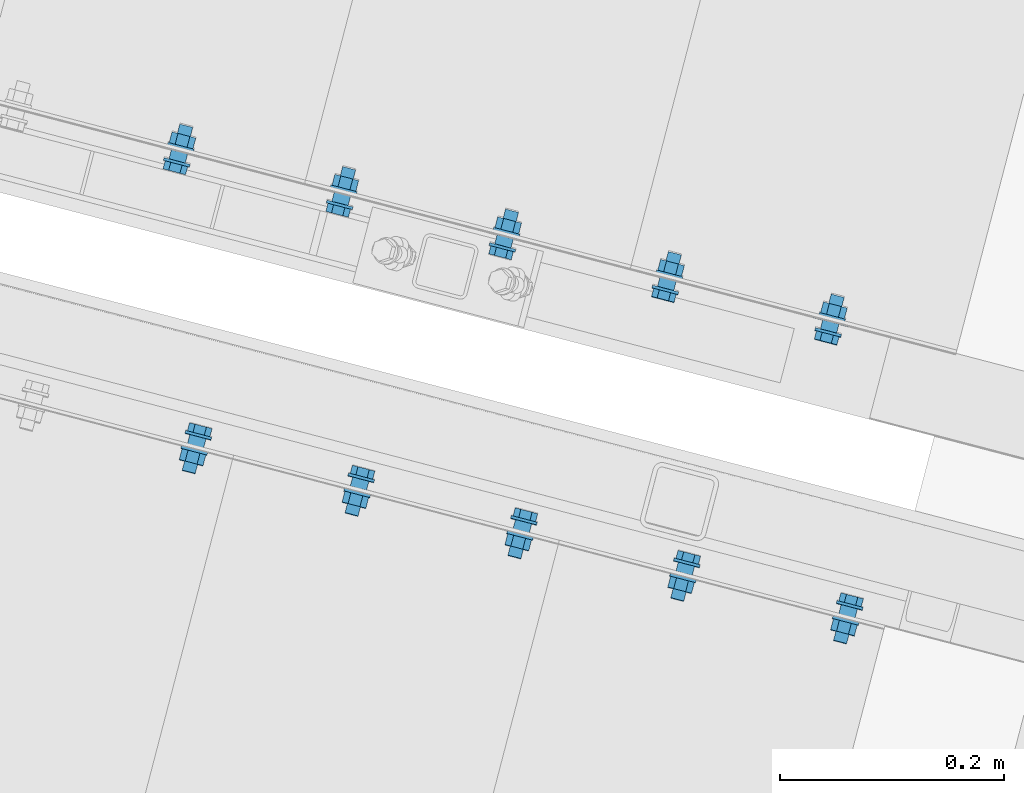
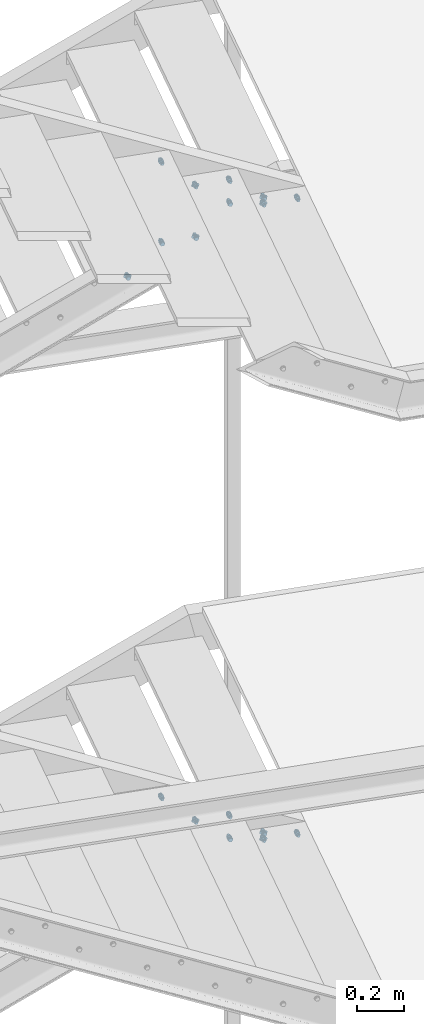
# One storey, part 145 of 169: 17 mechanical fasteners, 10 elements without a shape of their own.
"""IFC2X3 building model written with IfcOpenShell, lengths in millimetres."""

from ifc_helpers import new_model, si_unit, frame, frame_2d, origin_with_axes, origin_2d_with_axis, place, context, subcontext, project, spatial, polyline, circle_curve, parameter, trimmed, segment, composite_curve, circle, outline, extrude, source, transform, mapped, material, type_object, element, aggregate, save


model = new_model("IFC2X3")

# Units and contexts
model_context = context("Model", 3, precision=1e-05, world=origin_with_axes())
body_context = subcontext(model_context, "Body", "Model", "MODEL_VIEW")
ifc_project = project(units=[si_unit("LENGTHUNIT", "METRE", prefix="MILLI"), si_unit("AREAUNIT", "SQUARE_METRE"), si_unit("VOLUMEUNIT", "CUBIC_METRE"), si_unit("MASSUNIT", "GRAM", prefix="KILO"), si_unit("TIMEUNIT", "SECOND"), si_unit("PLANEANGLEUNIT", "RADIAN"), si_unit("SOLIDANGLEUNIT", "STERADIAN"), si_unit("THERMODYNAMICTEMPERATUREUNIT", "DEGREE_CELSIUS"), si_unit("LUMINOUSINTENSITYUNIT", "LUMEN")], contexts=[model_context])

# Site, building, storey
site_placement = place(None, origin_with_axes())
site = spatial("IfcSite", under=ifc_project, at=site_placement, Name="Undefined", CompositionType="ELEMENT")
building_placement = place(site_placement, origin_with_axes())
building = spatial("IfcBuilding", under=site, at=building_placement, Name="Undefined", CompositionType="ELEMENT")
storey_placement = place(building_placement, origin_with_axes())
storey = spatial("IfcBuildingStorey", under=building, at=storey_placement, Name="Undefined", CompositionType="ELEMENT", Elevation=0.0)

# Assembly, mechanical fastener
assembly_1_placement = place(storey_placement, origin_with_axes())
assembly_1 = element("IfcElementAssembly", 1, at=assembly_1_placement, inside=storey, Name="Steel Assembly", AssemblyPlace="NOTDEFINED", PredefinedType="RIGID_FRAME")
ifc_material = material(Name="Undefined")
discrete_accessory_type = type_object("IfcDiscreteAccessoryType", Name="Bolt assembly")
shared_shape_1 = source(origin_with_axes(), body_context, "Body", "SweptSolid", [
    extrude(circle(Radius=7.5, at=origin_2d_with_axis()), frame((0.0, -8.39999975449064, 0.0), z_axis=(0.0, 1.0, 0.0), x_axis=(1.0, 0.0, 0.0)), (0.0, 0.0, 1.0), 8.5),
    extrude(circle(Radius=7.5, at=origin_2d_with_axis()), frame((0.0, -0.100000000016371, 0.0), z_axis=(0.0, 1.0, 0.0), x_axis=(1.0, 0.0, 0.0)), (0.0, 0.0, 1.0), 3.1),
    extrude(outline(polyline([(10.39230484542, 0.0), (5.19615242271, 9.00000000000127), (-5.19615242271, 9.00000000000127), (-10.39230484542, 0.0), (-5.19615242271, -9.00000000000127), (5.19615242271, -9.00000000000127), (10.39230484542, 0.0)])), frame((0.0, -18.4999993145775, 0.0), z_axis=(0.0, 1.0, 0.0), x_axis=(1.0, 0.0, 0.0)), (0.0, 0.0, 1.0), 7.5),
    extrude(circle(Radius=6.0, at=origin_2d_with_axis()), frame((0.0, -10.9999999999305, 0.0), z_axis=(0.0, 1.0, 0.0), x_axis=(1.0, 0.0, 0.0)), (0.0, 0.0, 1.0), 35.0),
    extrude(circle(Radius=12.0, at=origin_2d_with_axis()), frame((0.0, -10.9999999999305, 0.0), z_axis=(0.0, 1.0, 0.0), x_axis=(1.0, 0.0, 0.0)), (0.0, 0.0, 1.0), 2.5),
    extrude(circle(Radius=12.0, at=origin_2d_with_axis()), frame((0.0, 2.99999999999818, 0.0), z_axis=(0.0, 1.0, 0.0), x_axis=(1.0, 0.0, 0.0)), (0.0, 0.0, 1.0), 2.5),
    extrude(outline(polyline([(10.96965511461, 0.0), (5.484827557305, 9.50000000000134), (-5.484827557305, 9.50000000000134), (-10.96965511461, 0.0), (-5.484827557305, -9.50000000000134), (5.484827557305, -9.50000000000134), (10.96965511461, 0.0)])), frame((0.0, 5.50000000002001, 0.0), z_axis=(0.0, 1.0, 0.0), x_axis=(1.0, 0.0, 0.0)), (0.0, 0.0, 1.0), 10.0),
])
mechanical_fastener_1_placement = place(assembly_1_placement, frame((-25660.5955844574, 6561.10286845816, 7700.32161330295), z_axis=(-2.54700353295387e-10, 0.0, -1.0), x_axis=(0.96754609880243, -0.252694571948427, 0.0)))
mechanical_fastener_1 = element("IfcMechanicalFastener", 2, at=mechanical_fastener_1_placement, type_object=discrete_accessory_type, material=ifc_material, Name="Bolt assembly", NominalDiameter=12.0, NominalLength=35.0, context=body_context, shape_type="MappedRepresentation", body=[
    mapped(shared_shape_1, transform((264.999998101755, 3.26144800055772e-09, 24.9999997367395))),
])
aggregate(assembly_1, [mechanical_fastener_1])

assembly_2_placement = place(storey_placement, origin_with_axes())
assembly_2 = element("IfcElementAssembly", 3, at=assembly_2_placement, inside=storey, Name="Steel Assembly", AssemblyPlace="NOTDEFINED", PredefinedType="RIGID_FRAME")
mechanical_fastener_2_placement = place(assembly_2_placement, frame((-25370.3317513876, 6485.29449610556, 7550.32161330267), z_axis=(-2.54700353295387e-10, 0.0, -1.0), x_axis=(0.96754609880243, -0.252694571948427, 0.0)))
mechanical_fastener_2 = element("IfcMechanicalFastener", 4, at=mechanical_fastener_2_placement, type_object=discrete_accessory_type, material=ifc_material, Name="Bolt assembly", NominalDiameter=12.0, NominalLength=35.0, context=body_context, shape_type="MappedRepresentation", body=[
    mapped(shared_shape_1, transform((264.999998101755, 3.26144800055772e-09, 24.9999997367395))),
])

assembly_3_placement = place(storey_placement, origin_with_axes())
assembly_3 = element("IfcElementAssembly", 5, at=assembly_3_placement, inside=storey, Name="Steel Assembly", AssemblyPlace="NOTDEFINED", PredefinedType="RIGID_FRAME")
mechanical_fastener_3_placement = place(assembly_3_placement, frame((-25080.0679183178, 6409.48612375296, 7400.3216133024), z_axis=(-2.54700353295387e-10, 0.0, -1.0), x_axis=(0.96754609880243, -0.252694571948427, 0.0)))
mechanical_fastener_3 = element("IfcMechanicalFastener", 6, at=mechanical_fastener_3_placement, type_object=discrete_accessory_type, material=ifc_material, Name="Bolt assembly", NominalDiameter=12.0, NominalLength=35.0, context=body_context, shape_type="MappedRepresentation", body=[
    mapped(shared_shape_1, transform((264.999998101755, 3.26144800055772e-09, 24.9999997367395))),
])

assembly_4_placement = place(storey_placement, origin_with_axes())
assembly_4 = element("IfcElementAssembly", 7, at=assembly_4_placement, inside=storey, Name="Steel Assembly", AssemblyPlace="NOTDEFINED", PredefinedType="RIGID_FRAME")
mechanical_fastener_4_placement = place(assembly_4_placement, frame((-24726.6469721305, 6575.56857970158, 7250.095847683), z_axis=(-2.54700353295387e-10, 0.0, -1.0), x_axis=(-0.967580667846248, 0.252562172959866, 0.0)))
mechanical_fastener_4 = element("IfcMechanicalFastener", 8, at=mechanical_fastener_4_placement, type_object=discrete_accessory_type, material=ifc_material, Name="Bolt assembly", NominalDiameter=12.0, NominalLength=35.0, context=body_context, shape_type="MappedRepresentation", body=[
    mapped(shared_shape_1, transform((264.999998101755, 3.26144800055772e-09, 24.9999997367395))),
])

assembly_5_placement = place(storey_placement, origin_with_axes())
assembly_5 = element("IfcElementAssembly", 9, at=assembly_5_placement, inside=storey, Name="Steel Assembly", AssemblyPlace="NOTDEFINED", PredefinedType="RIGID_FRAME")
mechanical_fastener_5_placement = place(assembly_5_placement, frame((-25016.9211758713, 6651.33723251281, 7100.09584768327), z_axis=(-2.54700353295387e-10, 0.0, -1.0), x_axis=(-0.967580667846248, 0.252562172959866, 0.0)))
mechanical_fastener_5 = element("IfcMechanicalFastener", 10, at=mechanical_fastener_5_placement, type_object=discrete_accessory_type, material=ifc_material, Name="Bolt assembly", NominalDiameter=12.0, NominalLength=35.0, context=body_context, shape_type="MappedRepresentation", body=[
    mapped(shared_shape_1, transform((264.999998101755, 3.26144800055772e-09, 24.9999997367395))),
])

assembly_6_placement = place(storey_placement, origin_with_axes())
assembly_6 = element("IfcElementAssembly", 11, at=assembly_6_placement, inside=storey, Name="Steel Assembly", AssemblyPlace="NOTDEFINED", PredefinedType="RIGID_FRAME")
mechanical_fastener_6_placement = place(assembly_6_placement, frame((-25660.7096618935, 6560.6659535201, 4400.32164420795), z_axis=(-2.54700353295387e-10, 0.0, -1.0), x_axis=(0.96754609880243, -0.252694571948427, 0.0)))
mechanical_fastener_6 = element("IfcMechanicalFastener", 12, at=mechanical_fastener_6_placement, type_object=discrete_accessory_type, material=ifc_material, Name="Bolt assembly", NominalDiameter=12.0, NominalLength=35.0, context=body_context, shape_type="MappedRepresentation", body=[
    mapped(shared_shape_1, transform((264.999998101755, 3.26144800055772e-09, 24.9999997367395))),
])
aggregate(assembly_6, [mechanical_fastener_6])

assembly_7_placement = place(storey_placement, origin_with_axes())
assembly_7 = element("IfcElementAssembly", 13, at=assembly_7_placement, inside=storey, Name="Steel Assembly", AssemblyPlace="NOTDEFINED", PredefinedType="RIGID_FRAME")
mechanical_fastener_7_placement = place(assembly_7_placement, frame((-25370.4458288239, 6484.8575811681, 4250.32164420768), z_axis=(-2.54700353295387e-10, 0.0, -1.0), x_axis=(0.96754609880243, -0.252694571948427, 0.0)))
mechanical_fastener_7 = element("IfcMechanicalFastener", 14, at=mechanical_fastener_7_placement, type_object=discrete_accessory_type, material=ifc_material, Name="Bolt assembly", NominalDiameter=12.0, NominalLength=35.0, context=body_context, shape_type="MappedRepresentation", body=[
    mapped(shared_shape_1, transform((264.999998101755, 3.26144800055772e-09, 24.9999997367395))),
])

assembly_8_placement = place(storey_placement, origin_with_axes())
assembly_8 = element("IfcElementAssembly", 15, at=assembly_8_placement, inside=storey, Name="Steel Assembly", AssemblyPlace="NOTDEFINED", PredefinedType="RIGID_FRAME")
mechanical_fastener_8_placement = place(assembly_8_placement, frame((-25080.1819957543, 6409.0492088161, 4100.3216442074), z_axis=(-2.54700353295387e-10, 0.0, -1.0), x_axis=(0.96754609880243, -0.252694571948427, 0.0)))
mechanical_fastener_8 = element("IfcMechanicalFastener", 16, at=mechanical_fastener_8_placement, type_object=discrete_accessory_type, material=ifc_material, Name="Bolt assembly", NominalDiameter=12.0, NominalLength=35.0, context=body_context, shape_type="MappedRepresentation", body=[
    mapped(shared_shape_1, transform((264.999998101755, 3.26144800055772e-09, 24.9999997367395))),
])

assembly_9_placement = place(storey_placement, origin_with_axes())
assembly_9 = element("IfcElementAssembly", 17, at=assembly_9_placement, inside=storey, Name="Steel Assembly", AssemblyPlace="NOTDEFINED", PredefinedType="RIGID_FRAME")
mechanical_fastener_9_placement = place(assembly_9_placement, frame((-24726.7610576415, 6575.13166712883, 3950.0958743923), z_axis=(-2.54700353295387e-10, 0.0, -1.0), x_axis=(-0.967580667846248, 0.252562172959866, 0.0)))
mechanical_fastener_9 = element("IfcMechanicalFastener", 18, at=mechanical_fastener_9_placement, type_object=discrete_accessory_type, material=ifc_material, Name="Bolt assembly", NominalDiameter=12.0, NominalLength=35.0, context=body_context, shape_type="MappedRepresentation", body=[
    mapped(shared_shape_1, transform((264.999998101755, 3.26144800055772e-09, 24.9999997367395))),
])

# Mechanical fastener
shared_shape_2 = source(origin_with_axes(), body_context, "Body", "SweptSolid", [
    extrude(circle(Radius=7.5, at=origin_2d_with_axis()), frame((0.0, -8.39999975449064, 0.0), z_axis=(0.0, 1.0, 0.0), x_axis=(1.0, 0.0, 0.0)), (0.0, 0.0, 1.0), 8.5),
    extrude(outline(composite_curve([segment(polyline([(-10.0, 7.5), (10.0, 7.5)]), True, "CONTINUOUS"), segment(trimmed(circle_curve(frame_2d((10.0, 0.0), x_axis=(0.0, 1.0)), 7.5), [parameter(0.0)], [parameter(3.14159265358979)], False, "PARAMETER"), True, "CONTINUOUS"), segment(polyline([(10.0, -7.5), (-10.0, -7.5)]), True, "CONTINUOUS"), segment(trimmed(circle_curve(frame_2d((-10.0, 0.0), x_axis=(0.0, -1.0)), 7.5), [parameter(0.0)], [parameter(3.14159265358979)], False, "PARAMETER"), True, "DISCONTINUOUS")], self_intersect=False)), frame((0.0, -0.100000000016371, 0.0), z_axis=(0.0, 1.0, 0.0), x_axis=(1.0, 0.0, 0.0)), (0.0, 0.0, 1.0), 3.1),
    extrude(outline(polyline([(10.39230484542, 0.0), (5.19615242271, 9.00000000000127), (-5.19615242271, 9.00000000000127), (-10.39230484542, 0.0), (-5.19615242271, -9.00000000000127), (5.19615242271, -9.00000000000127), (10.39230484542, 0.0)])), frame((0.0, -18.4999993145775, 0.0), z_axis=(0.0, 1.0, 0.0), x_axis=(1.0, 0.0, 0.0)), (0.0, 0.0, 1.0), 7.5),
    extrude(circle(Radius=6.0, at=origin_2d_with_axis()), frame((0.0, -10.9999999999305, 0.0), z_axis=(0.0, 1.0, 0.0), x_axis=(1.0, 0.0, 0.0)), (0.0, 0.0, 1.0), 35.0),
    extrude(circle(Radius=12.0, at=origin_2d_with_axis()), frame((0.0, -10.9999999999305, 0.0), z_axis=(0.0, 1.0, 0.0), x_axis=(1.0, 0.0, 0.0)), (0.0, 0.0, 1.0), 2.5),
    extrude(circle(Radius=12.0, at=origin_2d_with_axis()), frame((0.0, 2.99999999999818, 0.0), z_axis=(0.0, 1.0, 0.0), x_axis=(1.0, 0.0, 0.0)), (0.0, 0.0, 1.0), 2.5),
    extrude(outline(polyline([(10.96965511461, 0.0), (5.484827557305, 9.50000000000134), (-5.484827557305, 9.50000000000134), (-10.96965511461, 0.0), (-5.484827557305, -9.50000000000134), (5.484827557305, -9.50000000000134), (10.96965511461, 0.0)])), frame((0.0, 5.50000000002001, 0.0), z_axis=(0.0, 1.0, 0.0), x_axis=(1.0, 0.0, 0.0)), (0.0, 0.0, 1.0), 10.0),
])
mechanical_fastener_10_placement = place(assembly_2_placement, frame((-25370.3317513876, 6485.29449610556, 7550.32161330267), z_axis=(-2.54700353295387e-10, 0.0, -1.0), x_axis=(0.96754609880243, -0.252694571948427, 0.0)))
mechanical_fastener_10 = element("IfcMechanicalFastener", 19, at=mechanical_fastener_10_placement, type_object=discrete_accessory_type, material=ifc_material, Name="Bolt assembly", NominalDiameter=12.0, NominalLength=35.0, context=body_context, shape_type="MappedRepresentation", body=[
    mapped(shared_shape_2, transform((115.000000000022, -4.04725142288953e-10, 25.0))),
])

aggregate(assembly_2, [mechanical_fastener_10, mechanical_fastener_2])

shared_shape_3 = source(origin_with_axes(), body_context, "Body", "SweptSolid", [
    extrude(circle(Radius=7.5, at=origin_2d_with_axis()), frame((0.0, -8.39999975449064, 0.0), z_axis=(0.0, 1.0, 0.0), x_axis=(1.0, 0.0, 0.0)), (0.0, 0.0, 1.0), 8.5),
    extrude(outline(composite_curve([segment(polyline([(-10.0, 7.5), (10.0, 7.5)]), True, "CONTINUOUS"), segment(trimmed(circle_curve(frame_2d((10.0, 0.0), x_axis=(0.0, 1.0)), 7.5), [parameter(0.0)], [parameter(3.14159265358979)], False, "PARAMETER"), True, "CONTINUOUS"), segment(polyline([(10.0, -7.5), (-10.0, -7.5)]), True, "CONTINUOUS"), segment(trimmed(circle_curve(frame_2d((-10.0, 0.0), x_axis=(0.0, -1.0)), 7.5), [parameter(0.0)], [parameter(3.14159265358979)], False, "PARAMETER"), True, "DISCONTINUOUS")], self_intersect=False)), frame((0.0, -0.100000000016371, 0.0), z_axis=(0.0, 1.0, 0.0), x_axis=(1.0, 0.0, 0.0)), (0.0, 0.0, 1.0), 3.1),
    extrude(outline(polyline([(10.39230484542, 0.0), (5.19615242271, 9.00000000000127), (-5.19615242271, 9.00000000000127), (-10.39230484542, 0.0), (-5.19615242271, -9.00000000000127), (5.19615242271, -9.00000000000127), (10.39230484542, 0.0)])), frame((0.0, -18.4999993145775, 0.0), z_axis=(0.0, 1.0, 0.0), x_axis=(1.0, 0.0, 0.0)), (0.0, 0.0, 1.0), 7.5),
    extrude(circle(Radius=6.0, at=origin_2d_with_axis()), frame((0.0, -10.9999999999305, 0.0), z_axis=(0.0, 1.0, 0.0), x_axis=(1.0, 0.0, 0.0)), (0.0, 0.0, 1.0), 35.0),
    extrude(circle(Radius=12.0, at=origin_2d_with_axis()), frame((0.0, -10.9999999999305, 0.0), z_axis=(0.0, 1.0, 0.0), x_axis=(1.0, 0.0, 0.0)), (0.0, 0.0, 1.0), 2.5),
    extrude(circle(Radius=12.0, at=origin_2d_with_axis()), frame((0.0, 2.99999999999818, 0.0), z_axis=(0.0, 1.0, 0.0), x_axis=(1.0, 0.0, 0.0)), (0.0, 0.0, 1.0), 2.5),
    extrude(outline(polyline([(10.96965511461, 0.0), (5.484827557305, 9.50000000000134), (-5.484827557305, 9.50000000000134), (-10.96965511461, 0.0), (-5.484827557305, -9.50000000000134), (5.484827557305, -9.50000000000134), (10.96965511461, 0.0)])), frame((0.0, 5.50000000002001, 0.0), z_axis=(0.0, 1.0, 0.0), x_axis=(1.0, 0.0, 0.0)), (0.0, 0.0, 1.0), 10.0),
])
mechanical_fastener_11_placement = place(assembly_3_placement, frame((-25080.0679183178, 6409.48612375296, 7400.3216133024), z_axis=(-2.54700353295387e-10, 0.0, -1.0), x_axis=(0.96754609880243, -0.252694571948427, 0.0)))
mechanical_fastener_11 = element("IfcMechanicalFastener", 20, at=mechanical_fastener_11_placement, type_object=discrete_accessory_type, material=ifc_material, Name="Bolt assembly", NominalDiameter=12.0, NominalLength=35.0, context=body_context, shape_type="MappedRepresentation", body=[
    mapped(shared_shape_3, transform((115.000000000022, -4.04725142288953e-10, 25.0))),
])

aggregate(assembly_3, [mechanical_fastener_11, mechanical_fastener_3])

shared_shape_4 = source(origin_with_axes(), body_context, "Body", "SweptSolid", [
    extrude(circle(Radius=7.5, at=origin_2d_with_axis()), frame((0.0, -8.39999975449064, 0.0), z_axis=(0.0, 1.0, 0.0), x_axis=(1.0, 0.0, 0.0)), (0.0, 0.0, 1.0), 8.5),
    extrude(outline(composite_curve([segment(polyline([(-10.0, 7.5), (10.0, 7.5)]), True, "CONTINUOUS"), segment(trimmed(circle_curve(frame_2d((10.0, 0.0), x_axis=(0.0, 1.0)), 7.5), [parameter(0.0)], [parameter(3.14159265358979)], False, "PARAMETER"), True, "CONTINUOUS"), segment(polyline([(10.0, -7.5), (-10.0, -7.5)]), True, "CONTINUOUS"), segment(trimmed(circle_curve(frame_2d((-10.0, 0.0), x_axis=(0.0, -1.0)), 7.5), [parameter(0.0)], [parameter(3.14159265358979)], False, "PARAMETER"), True, "DISCONTINUOUS")], self_intersect=False)), frame((0.0, -0.100000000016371, 0.0), z_axis=(0.0, 1.0, 0.0), x_axis=(1.0, 0.0, 0.0)), (0.0, 0.0, 1.0), 3.1),
    extrude(outline(polyline([(10.39230484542, 0.0), (5.19615242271, 9.00000000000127), (-5.19615242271, 9.00000000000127), (-10.39230484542, 0.0), (-5.19615242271, -9.00000000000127), (5.19615242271, -9.00000000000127), (10.39230484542, 0.0)])), frame((0.0, -18.4999993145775, 0.0), z_axis=(0.0, 1.0, 0.0), x_axis=(1.0, 0.0, 0.0)), (0.0, 0.0, 1.0), 7.5),
    extrude(circle(Radius=6.0, at=origin_2d_with_axis()), frame((0.0, -10.9999999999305, 0.0), z_axis=(0.0, 1.0, 0.0), x_axis=(1.0, 0.0, 0.0)), (0.0, 0.0, 1.0), 35.0),
    extrude(circle(Radius=12.0, at=origin_2d_with_axis()), frame((0.0, -10.9999999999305, 0.0), z_axis=(0.0, 1.0, 0.0), x_axis=(1.0, 0.0, 0.0)), (0.0, 0.0, 1.0), 2.5),
    extrude(circle(Radius=12.0, at=origin_2d_with_axis()), frame((0.0, 2.99999999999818, 0.0), z_axis=(0.0, 1.0, 0.0), x_axis=(1.0, 0.0, 0.0)), (0.0, 0.0, 1.0), 2.5),
    extrude(outline(polyline([(10.96965511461, 0.0), (5.484827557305, 9.50000000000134), (-5.484827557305, 9.50000000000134), (-10.96965511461, 0.0), (-5.484827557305, -9.50000000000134), (5.484827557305, -9.50000000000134), (10.96965511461, 0.0)])), frame((0.0, 5.50000000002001, 0.0), z_axis=(0.0, 1.0, 0.0), x_axis=(1.0, 0.0, 0.0)), (0.0, 0.0, 1.0), 10.0),
])
mechanical_fastener_12_placement = place(assembly_4_placement, frame((-24726.6469721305, 6575.56857970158, 7250.095847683), z_axis=(-2.54700353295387e-10, 0.0, -1.0), x_axis=(-0.967580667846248, 0.252562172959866, 0.0)))
mechanical_fastener_12 = element("IfcMechanicalFastener", 21, at=mechanical_fastener_12_placement, type_object=discrete_accessory_type, material=ifc_material, Name="Bolt assembly", NominalDiameter=12.0, NominalLength=35.0, context=body_context, shape_type="MappedRepresentation", body=[
    mapped(shared_shape_4, transform((115.000000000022, -4.04725142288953e-10, 25.0))),
])

aggregate(assembly_4, [mechanical_fastener_12, mechanical_fastener_4])

shared_shape_5 = source(origin_with_axes(), body_context, "Body", "SweptSolid", [
    extrude(circle(Radius=7.5, at=origin_2d_with_axis()), frame((0.0, -8.39999975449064, 0.0), z_axis=(0.0, 1.0, 0.0), x_axis=(1.0, 0.0, 0.0)), (0.0, 0.0, 1.0), 8.5),
    extrude(outline(composite_curve([segment(polyline([(-10.0, 7.5), (10.0, 7.5)]), True, "CONTINUOUS"), segment(trimmed(circle_curve(frame_2d((10.0, 0.0), x_axis=(0.0, 1.0)), 7.5), [parameter(0.0)], [parameter(3.14159265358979)], False, "PARAMETER"), True, "CONTINUOUS"), segment(polyline([(10.0, -7.5), (-10.0, -7.5)]), True, "CONTINUOUS"), segment(trimmed(circle_curve(frame_2d((-10.0, 0.0), x_axis=(0.0, -1.0)), 7.5), [parameter(0.0)], [parameter(3.14159265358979)], False, "PARAMETER"), True, "DISCONTINUOUS")], self_intersect=False)), frame((0.0, -0.100000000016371, 0.0), z_axis=(0.0, 1.0, 0.0), x_axis=(1.0, 0.0, 0.0)), (0.0, 0.0, 1.0), 3.1),
    extrude(outline(polyline([(10.39230484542, 0.0), (5.19615242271, 9.00000000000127), (-5.19615242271, 9.00000000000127), (-10.39230484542, 0.0), (-5.19615242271, -9.00000000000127), (5.19615242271, -9.00000000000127), (10.39230484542, 0.0)])), frame((0.0, -18.4999993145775, 0.0), z_axis=(0.0, 1.0, 0.0), x_axis=(1.0, 0.0, 0.0)), (0.0, 0.0, 1.0), 7.5),
    extrude(circle(Radius=6.0, at=origin_2d_with_axis()), frame((0.0, -10.9999999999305, 0.0), z_axis=(0.0, 1.0, 0.0), x_axis=(1.0, 0.0, 0.0)), (0.0, 0.0, 1.0), 35.0),
    extrude(circle(Radius=12.0, at=origin_2d_with_axis()), frame((0.0, -10.9999999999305, 0.0), z_axis=(0.0, 1.0, 0.0), x_axis=(1.0, 0.0, 0.0)), (0.0, 0.0, 1.0), 2.5),
    extrude(circle(Radius=12.0, at=origin_2d_with_axis()), frame((0.0, 2.99999999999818, 0.0), z_axis=(0.0, 1.0, 0.0), x_axis=(1.0, 0.0, 0.0)), (0.0, 0.0, 1.0), 2.5),
    extrude(outline(polyline([(10.96965511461, 0.0), (5.484827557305, 9.50000000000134), (-5.484827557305, 9.50000000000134), (-10.96965511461, 0.0), (-5.484827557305, -9.50000000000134), (5.484827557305, -9.50000000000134), (10.96965511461, 0.0)])), frame((0.0, 5.50000000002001, 0.0), z_axis=(0.0, 1.0, 0.0), x_axis=(1.0, 0.0, 0.0)), (0.0, 0.0, 1.0), 10.0),
])
mechanical_fastener_13_placement = place(assembly_5_placement, frame((-25016.9211758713, 6651.33723251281, 7100.09584768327), z_axis=(-2.54700353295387e-10, 0.0, -1.0), x_axis=(-0.967580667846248, 0.252562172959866, 0.0)))
mechanical_fastener_13 = element("IfcMechanicalFastener", 22, at=mechanical_fastener_13_placement, type_object=discrete_accessory_type, material=ifc_material, Name="Bolt assembly", NominalDiameter=12.0, NominalLength=35.0, context=body_context, shape_type="MappedRepresentation", body=[
    mapped(shared_shape_5, transform((115.000000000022, -4.04725142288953e-10, 25.0))),
])

aggregate(assembly_5, [mechanical_fastener_13, mechanical_fastener_5])

# Assembly, mechanical fastener
assembly_10_placement = place(storey_placement, origin_with_axes())
assembly_10 = element("IfcElementAssembly", 23, at=assembly_10_placement, inside=storey, Name="Steel Assembly", AssemblyPlace="NOTDEFINED", PredefinedType="RIGID_FRAME")
shared_shape_6 = source(origin_with_axes(), body_context, "Body", "SweptSolid", [
    extrude(circle(Radius=7.5, at=origin_2d_with_axis()), frame((0.0, -8.39999975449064, 0.0), z_axis=(0.0, 1.0, 0.0), x_axis=(1.0, 0.0, 0.0)), (0.0, 0.0, 1.0), 8.5),
    extrude(outline(composite_curve([segment(polyline([(-10.0, 7.5), (10.0, 7.5)]), True, "CONTINUOUS"), segment(trimmed(circle_curve(frame_2d((10.0, 0.0), x_axis=(0.0, 1.0)), 7.5), [parameter(0.0)], [parameter(3.14159265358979)], False, "PARAMETER"), True, "CONTINUOUS"), segment(polyline([(10.0, -7.5), (-10.0, -7.5)]), True, "CONTINUOUS"), segment(trimmed(circle_curve(frame_2d((-10.0, 0.0), x_axis=(0.0, -1.0)), 7.5), [parameter(0.0)], [parameter(3.14159265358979)], False, "PARAMETER"), True, "DISCONTINUOUS")], self_intersect=False)), frame((0.0, -0.100000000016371, 0.0), z_axis=(0.0, 1.0, 0.0), x_axis=(1.0, 0.0, 0.0)), (0.0, 0.0, 1.0), 3.1),
    extrude(outline(polyline([(10.39230484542, 0.0), (5.19615242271, 9.00000000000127), (-5.19615242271, 9.00000000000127), (-10.39230484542, 0.0), (-5.19615242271, -9.00000000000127), (5.19615242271, -9.00000000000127), (10.39230484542, 0.0)])), frame((0.0, -18.4999993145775, 0.0), z_axis=(0.0, 1.0, 0.0), x_axis=(1.0, 0.0, 0.0)), (0.0, 0.0, 1.0), 7.5),
    extrude(circle(Radius=6.0, at=origin_2d_with_axis()), frame((0.0, -10.9999999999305, 0.0), z_axis=(0.0, 1.0, 0.0), x_axis=(1.0, 0.0, 0.0)), (0.0, 0.0, 1.0), 35.0),
    extrude(circle(Radius=12.0, at=origin_2d_with_axis()), frame((0.0, -10.9999999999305, 0.0), z_axis=(0.0, 1.0, 0.0), x_axis=(1.0, 0.0, 0.0)), (0.0, 0.0, 1.0), 2.5),
    extrude(circle(Radius=12.0, at=origin_2d_with_axis()), frame((0.0, 2.99999999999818, 0.0), z_axis=(0.0, 1.0, 0.0), x_axis=(1.0, 0.0, 0.0)), (0.0, 0.0, 1.0), 2.5),
    extrude(outline(polyline([(10.96965511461, 0.0), (5.484827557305, 9.50000000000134), (-5.484827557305, 9.50000000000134), (-10.96965511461, 0.0), (-5.484827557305, -9.50000000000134), (5.484827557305, -9.50000000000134), (10.96965511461, 0.0)])), frame((0.0, 5.50000000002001, 0.0), z_axis=(0.0, 1.0, 0.0), x_axis=(1.0, 0.0, 0.0)), (0.0, 0.0, 1.0), 10.0),
])
mechanical_fastener_14_placement = place(assembly_10_placement, frame((-25307.1953796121, 6727.10588532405, 6950.09584768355), z_axis=(-2.54700353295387e-10, 0.0, -1.0), x_axis=(-0.967580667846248, 0.252562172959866, 0.0)))
mechanical_fastener_14 = element("IfcMechanicalFastener", 24, at=mechanical_fastener_14_placement, type_object=discrete_accessory_type, material=ifc_material, Name="Bolt assembly", NominalDiameter=12.0, NominalLength=35.0, context=body_context, shape_type="MappedRepresentation", body=[
    mapped(shared_shape_6, transform((115.000000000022, -4.04725142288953e-10, 25.0))),
])
aggregate(assembly_10, [mechanical_fastener_14])

# Mechanical fastener
shared_shape_7 = source(origin_with_axes(), body_context, "Body", "SweptSolid", [
    extrude(circle(Radius=7.5, at=origin_2d_with_axis()), frame((0.0, -8.39999975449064, 0.0), z_axis=(0.0, 1.0, 0.0), x_axis=(1.0, 0.0, 0.0)), (0.0, 0.0, 1.0), 8.5),
    extrude(outline(composite_curve([segment(polyline([(-10.0, 7.5), (10.0, 7.5)]), True, "CONTINUOUS"), segment(trimmed(circle_curve(frame_2d((10.0, 0.0), x_axis=(0.0, 1.0)), 7.5), [parameter(0.0)], [parameter(3.14159265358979)], False, "PARAMETER"), True, "CONTINUOUS"), segment(polyline([(10.0, -7.5), (-10.0, -7.5)]), True, "CONTINUOUS"), segment(trimmed(circle_curve(frame_2d((-10.0, 0.0), x_axis=(0.0, -1.0)), 7.5), [parameter(0.0)], [parameter(3.14159265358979)], False, "PARAMETER"), True, "DISCONTINUOUS")], self_intersect=False)), frame((0.0, -0.100000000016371, 0.0), z_axis=(0.0, 1.0, 0.0), x_axis=(1.0, 0.0, 0.0)), (0.0, 0.0, 1.0), 3.1),
    extrude(outline(polyline([(10.39230484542, 0.0), (5.19615242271, 9.00000000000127), (-5.19615242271, 9.00000000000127), (-10.39230484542, 0.0), (-5.19615242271, -9.00000000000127), (5.19615242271, -9.00000000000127), (10.39230484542, 0.0)])), frame((0.0, -18.4999993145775, 0.0), z_axis=(0.0, 1.0, 0.0), x_axis=(1.0, 0.0, 0.0)), (0.0, 0.0, 1.0), 7.5),
    extrude(circle(Radius=6.0, at=origin_2d_with_axis()), frame((0.0, -10.9999999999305, 0.0), z_axis=(0.0, 1.0, 0.0), x_axis=(1.0, 0.0, 0.0)), (0.0, 0.0, 1.0), 35.0),
    extrude(circle(Radius=12.0, at=origin_2d_with_axis()), frame((0.0, -10.9999999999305, 0.0), z_axis=(0.0, 1.0, 0.0), x_axis=(1.0, 0.0, 0.0)), (0.0, 0.0, 1.0), 2.5),
    extrude(circle(Radius=12.0, at=origin_2d_with_axis()), frame((0.0, 2.99999999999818, 0.0), z_axis=(0.0, 1.0, 0.0), x_axis=(1.0, 0.0, 0.0)), (0.0, 0.0, 1.0), 2.5),
    extrude(outline(polyline([(10.96965511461, 0.0), (5.484827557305, 9.50000000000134), (-5.484827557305, 9.50000000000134), (-10.96965511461, 0.0), (-5.484827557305, -9.50000000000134), (5.484827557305, -9.50000000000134), (10.96965511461, 0.0)])), frame((0.0, 5.50000000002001, 0.0), z_axis=(0.0, 1.0, 0.0), x_axis=(1.0, 0.0, 0.0)), (0.0, 0.0, 1.0), 10.0),
])
mechanical_fastener_15_placement = place(assembly_7_placement, frame((-25370.4458288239, 6484.8575811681, 4250.32164420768), z_axis=(-2.54700353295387e-10, 0.0, -1.0), x_axis=(0.96754609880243, -0.252694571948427, 0.0)))
mechanical_fastener_15 = element("IfcMechanicalFastener", 25, at=mechanical_fastener_15_placement, type_object=discrete_accessory_type, material=ifc_material, Name="Bolt assembly", NominalDiameter=12.0, NominalLength=35.0, context=body_context, shape_type="MappedRepresentation", body=[
    mapped(shared_shape_7, transform((115.000000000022, -4.04725142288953e-10, 25.0))),
])

aggregate(assembly_7, [mechanical_fastener_15, mechanical_fastener_7])

shared_shape_8 = source(origin_with_axes(), body_context, "Body", "SweptSolid", [
    extrude(circle(Radius=7.5, at=origin_2d_with_axis()), frame((0.0, -8.39999975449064, 0.0), z_axis=(0.0, 1.0, 0.0), x_axis=(1.0, 0.0, 0.0)), (0.0, 0.0, 1.0), 8.5),
    extrude(outline(composite_curve([segment(polyline([(-10.0, 7.5), (10.0, 7.5)]), True, "CONTINUOUS"), segment(trimmed(circle_curve(frame_2d((10.0, 0.0), x_axis=(0.0, 1.0)), 7.5), [parameter(0.0)], [parameter(3.14159265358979)], False, "PARAMETER"), True, "CONTINUOUS"), segment(polyline([(10.0, -7.5), (-10.0, -7.5)]), True, "CONTINUOUS"), segment(trimmed(circle_curve(frame_2d((-10.0, 0.0), x_axis=(0.0, -1.0)), 7.5), [parameter(0.0)], [parameter(3.14159265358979)], False, "PARAMETER"), True, "DISCONTINUOUS")], self_intersect=False)), frame((0.0, -0.100000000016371, 0.0), z_axis=(0.0, 1.0, 0.0), x_axis=(1.0, 0.0, 0.0)), (0.0, 0.0, 1.0), 3.1),
    extrude(outline(polyline([(10.39230484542, 0.0), (5.19615242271, 9.00000000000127), (-5.19615242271, 9.00000000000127), (-10.39230484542, 0.0), (-5.19615242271, -9.00000000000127), (5.19615242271, -9.00000000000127), (10.39230484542, 0.0)])), frame((0.0, -18.4999993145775, 0.0), z_axis=(0.0, 1.0, 0.0), x_axis=(1.0, 0.0, 0.0)), (0.0, 0.0, 1.0), 7.5),
    extrude(circle(Radius=6.0, at=origin_2d_with_axis()), frame((0.0, -10.9999999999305, 0.0), z_axis=(0.0, 1.0, 0.0), x_axis=(1.0, 0.0, 0.0)), (0.0, 0.0, 1.0), 35.0),
    extrude(circle(Radius=12.0, at=origin_2d_with_axis()), frame((0.0, -10.9999999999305, 0.0), z_axis=(0.0, 1.0, 0.0), x_axis=(1.0, 0.0, 0.0)), (0.0, 0.0, 1.0), 2.5),
    extrude(circle(Radius=12.0, at=origin_2d_with_axis()), frame((0.0, 2.99999999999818, 0.0), z_axis=(0.0, 1.0, 0.0), x_axis=(1.0, 0.0, 0.0)), (0.0, 0.0, 1.0), 2.5),
    extrude(outline(polyline([(10.96965511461, 0.0), (5.484827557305, 9.50000000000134), (-5.484827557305, 9.50000000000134), (-10.96965511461, 0.0), (-5.484827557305, -9.50000000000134), (5.484827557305, -9.50000000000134), (10.96965511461, 0.0)])), frame((0.0, 5.50000000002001, 0.0), z_axis=(0.0, 1.0, 0.0), x_axis=(1.0, 0.0, 0.0)), (0.0, 0.0, 1.0), 10.0),
])
mechanical_fastener_16_placement = place(assembly_8_placement, frame((-25080.1819957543, 6409.0492088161, 4100.3216442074), z_axis=(-2.54700353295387e-10, 0.0, -1.0), x_axis=(0.96754609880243, -0.252694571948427, 0.0)))
mechanical_fastener_16 = element("IfcMechanicalFastener", 26, at=mechanical_fastener_16_placement, type_object=discrete_accessory_type, material=ifc_material, Name="Bolt assembly", NominalDiameter=12.0, NominalLength=35.0, context=body_context, shape_type="MappedRepresentation", body=[
    mapped(shared_shape_8, transform((115.000000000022, -4.04725142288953e-10, 25.0))),
])

aggregate(assembly_8, [mechanical_fastener_16, mechanical_fastener_8])

shared_shape_9 = source(origin_with_axes(), body_context, "Body", "SweptSolid", [
    extrude(circle(Radius=7.5, at=origin_2d_with_axis()), frame((0.0, -8.39999975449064, 0.0), z_axis=(0.0, 1.0, 0.0), x_axis=(1.0, 0.0, 0.0)), (0.0, 0.0, 1.0), 8.5),
    extrude(outline(composite_curve([segment(polyline([(-10.0, 7.5), (10.0, 7.5)]), True, "CONTINUOUS"), segment(trimmed(circle_curve(frame_2d((10.0, 0.0), x_axis=(0.0, 1.0)), 7.5), [parameter(0.0)], [parameter(3.14159265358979)], False, "PARAMETER"), True, "CONTINUOUS"), segment(polyline([(10.0, -7.5), (-10.0, -7.5)]), True, "CONTINUOUS"), segment(trimmed(circle_curve(frame_2d((-10.0, 0.0), x_axis=(0.0, -1.0)), 7.5), [parameter(0.0)], [parameter(3.14159265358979)], False, "PARAMETER"), True, "DISCONTINUOUS")], self_intersect=False)), frame((0.0, -0.100000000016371, 0.0), z_axis=(0.0, 1.0, 0.0), x_axis=(1.0, 0.0, 0.0)), (0.0, 0.0, 1.0), 3.1),
    extrude(outline(polyline([(10.39230484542, 0.0), (5.19615242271, 9.00000000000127), (-5.19615242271, 9.00000000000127), (-10.39230484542, 0.0), (-5.19615242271, -9.00000000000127), (5.19615242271, -9.00000000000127), (10.39230484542, 0.0)])), frame((0.0, -18.4999993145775, 0.0), z_axis=(0.0, 1.0, 0.0), x_axis=(1.0, 0.0, 0.0)), (0.0, 0.0, 1.0), 7.5),
    extrude(circle(Radius=6.0, at=origin_2d_with_axis()), frame((0.0, -10.9999999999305, 0.0), z_axis=(0.0, 1.0, 0.0), x_axis=(1.0, 0.0, 0.0)), (0.0, 0.0, 1.0), 35.0),
    extrude(circle(Radius=12.0, at=origin_2d_with_axis()), frame((0.0, -10.9999999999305, 0.0), z_axis=(0.0, 1.0, 0.0), x_axis=(1.0, 0.0, 0.0)), (0.0, 0.0, 1.0), 2.5),
    extrude(circle(Radius=12.0, at=origin_2d_with_axis()), frame((0.0, 2.99999999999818, 0.0), z_axis=(0.0, 1.0, 0.0), x_axis=(1.0, 0.0, 0.0)), (0.0, 0.0, 1.0), 2.5),
    extrude(outline(polyline([(10.96965511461, 0.0), (5.484827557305, 9.50000000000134), (-5.484827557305, 9.50000000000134), (-10.96965511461, 0.0), (-5.484827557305, -9.50000000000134), (5.484827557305, -9.50000000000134), (10.96965511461, 0.0)])), frame((0.0, 5.50000000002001, 0.0), z_axis=(0.0, 1.0, 0.0), x_axis=(1.0, 0.0, 0.0)), (0.0, 0.0, 1.0), 10.0),
])
mechanical_fastener_17_placement = place(assembly_9_placement, frame((-24726.7610576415, 6575.13166712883, 3950.0958743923), z_axis=(-2.54700353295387e-10, 0.0, -1.0), x_axis=(-0.967580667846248, 0.252562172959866, 0.0)))
mechanical_fastener_17 = element("IfcMechanicalFastener", 27, at=mechanical_fastener_17_placement, type_object=discrete_accessory_type, material=ifc_material, Name="Bolt assembly", NominalDiameter=12.0, NominalLength=35.0, context=body_context, shape_type="MappedRepresentation", body=[
    mapped(shared_shape_9, transform((115.000000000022, -4.04725142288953e-10, 25.0))),
])

aggregate(assembly_9, [mechanical_fastener_17, mechanical_fastener_9])

save(model, "model.ifc")
